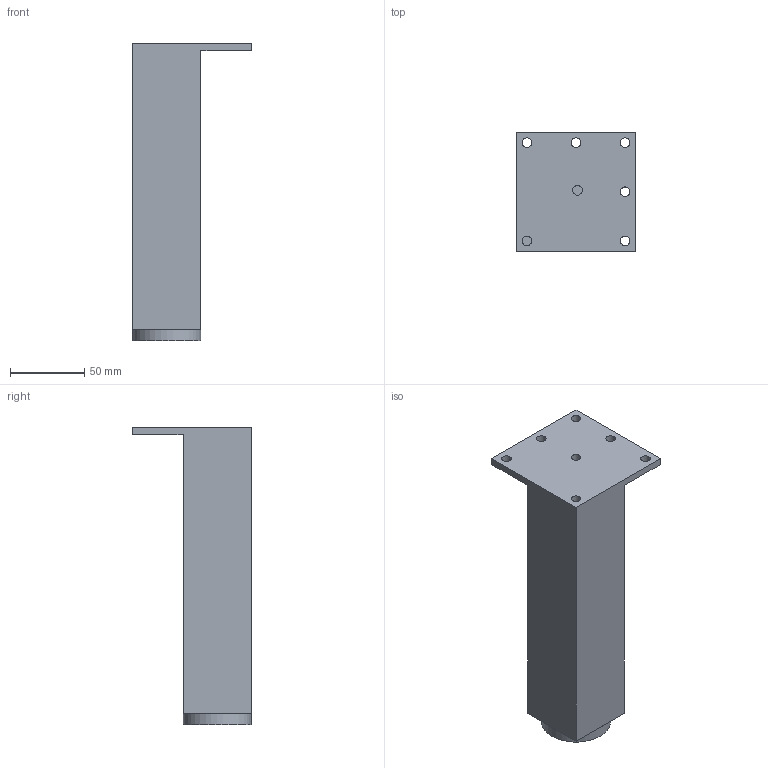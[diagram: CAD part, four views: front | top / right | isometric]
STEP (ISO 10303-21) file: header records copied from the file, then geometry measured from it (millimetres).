
FILE_DESCRIPTION( ( 'STEP AP214' ), '1' );
FILE_NAME( 'D:/Yug/2021/Desk_and_office_organisation/QC/9119546.stp', '2021-01-06T05:13:47', ( '' ), ( '' ), ' ', 'PARTsolutions', ' ' );
FILE_SCHEMA( ( 'AUTOMOTIVE_DESIGN { 1 0 10303 214 1 1 1 1 }' ) );
Length unit declared in the file: millimetre
Products named in the file (1): _9119546
Bounding box: 80 x 80 x 200 mm (x, y, z)
Volume: 440060 mm3; surface area: 50366.6 mm2
Topology: 1 solids, 1 shells, 23 faces, 52 edges, 33 vertices
Faces by surface type: plane 15, cylinder 8
Full cylindrical faces by diameter (mm): 6.48 x7, 46 x1
Entity records: 825 total; most frequent: DIRECTION 111, CARTESIAN_POINT 101, ORIENTED_EDGE 88, EDGE_CURVE 44, AXIS2_PLACEMENT_3D 43, EDGE_LOOP 43, VERTEX_POINT 33, FACE_OUTER_BOUND 31
